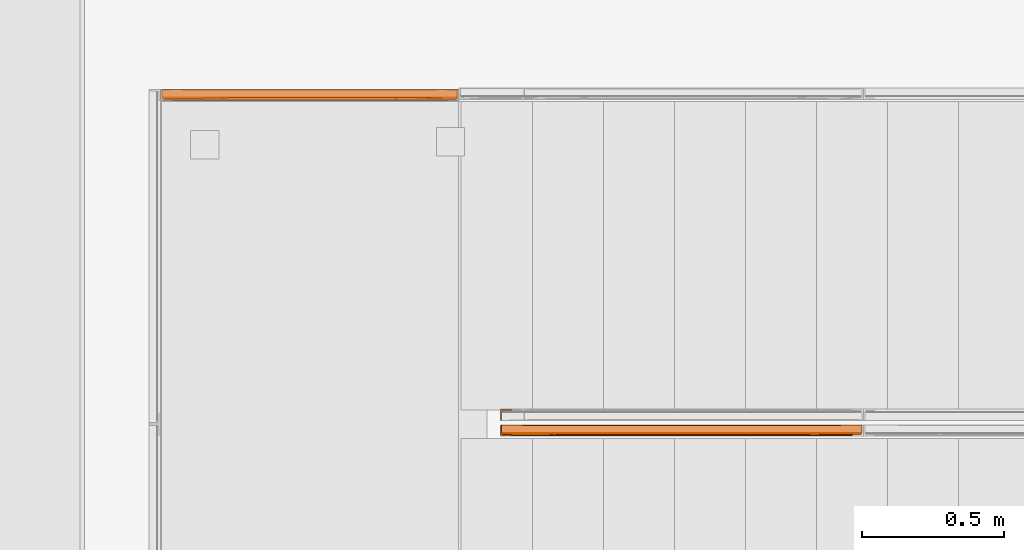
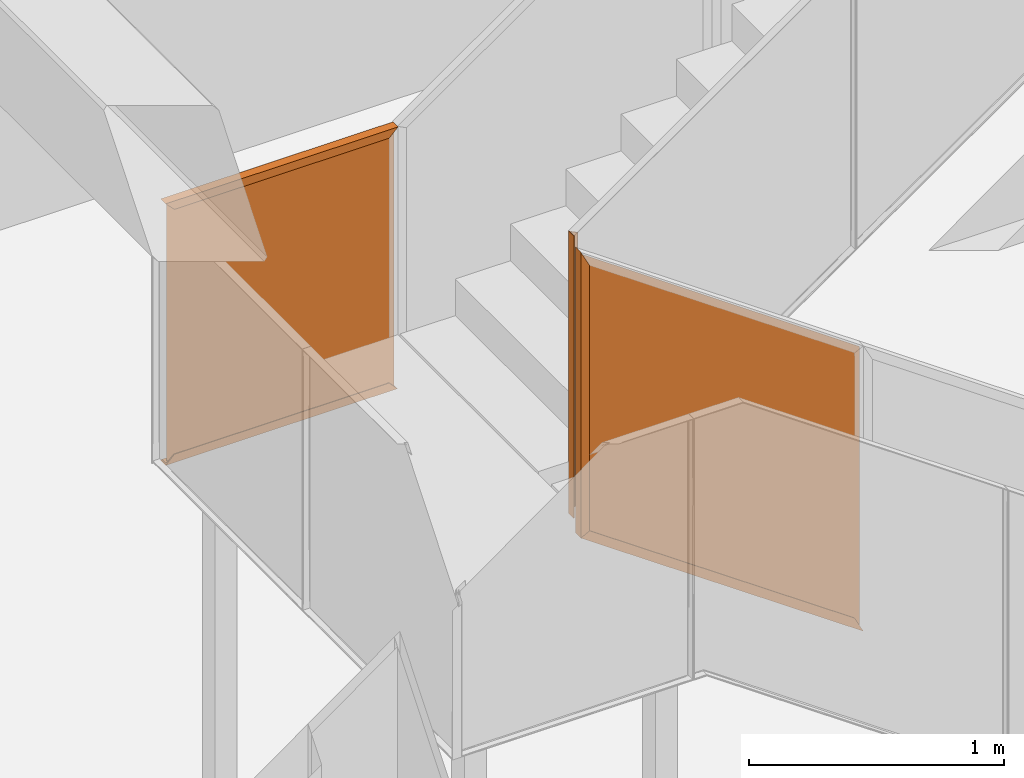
# One storey, part 219 of 230: 7 proxies.
"""IFC4X3_ADD2 building model written with IfcOpenShell, lengths in millimetres."""

from ifc_helpers import new_model, si_unit, direction, frame, origin_with_axes, place, context, subcontext, project, spatial, triangles, polygons, source, transform, mapped, material, type_object, type_shapes, element, save


model = new_model("IFC4X3_ADD2")

# Units and contexts
model_context = context("Model", 3, precision=1e-05, world=origin_with_axes(), true_north=direction((0.0, 1.0)))
body_context = subcontext(model_context, "Body", "Model", "MODEL_VIEW")
ifc_project = project(units=[si_unit("LENGTHUNIT", "METRE", prefix="MILLI"), si_unit("AREAUNIT", "SQUARE_METRE"), si_unit("VOLUMEUNIT", "CUBIC_METRE"), si_unit("PLANEANGLEUNIT", "RADIAN"), si_unit("TIMEUNIT", "SECOND"), si_unit("MASSUNIT", "GRAM")], contexts=[model_context])

# Site, building, storey
site_placement = place(None, origin_with_axes())
site = spatial("IfcSite", under=ifc_project, at=site_placement, Name="Site", CompositionType="ELEMENT")
building_placement = place(site_placement, origin_with_axes())
building = spatial("IfcBuilding", under=site, at=building_placement, Name="IFC Building Story")
storey_placement = place(building_placement, origin_with_axes())
storey = spatial("IfcBuildingStorey", under=building, at=storey_placement, Name="ETAGE 00 (0)", Elevation=0.0)

# Proxies
ifc_material = material(Name="<Unnamed>")
building_element_proxy_type_1 = type_object("IfcBuildingElementProxyType", Name="19", PredefinedType="NOTDEFINED")
shared_shape_1 = source(origin_with_axes(), body_context, "Body", "Tessellation", [
    triangles([(35064.3062255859, 1829.49995727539, 1612.7075214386), (35059.3065307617, 1832.51939506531, 1610.10419197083), (35061.30640869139, 1832.5096572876, 1611.14555282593), (35063.0597900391, 1831.87524833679, 1612.05857849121), (35063.9202026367, 1830.94420051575, 1612.50578956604), (35064.3062255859, 1803.49994544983, 1612.7075214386), (35059.3065307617, 1792.50003547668, 1610.10419197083), (35064.9782775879, 1800.79124450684, 1613.05720939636), (35066.2688964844, 1799.26808166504, 1613.72882537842), (35096.3135742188, 1797.49958496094, 1629.36871376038), (35098.0692810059, 1796.86968154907, 1630.28304748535), (35099.3133911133, 1794.49991340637, 1630.93068237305), (35098.9250427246, 1795.94197654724, 1630.72851448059), (35099.3133911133, 1792.50003547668, 1630.93068237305), (35066.5363220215, 1798.95312995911, 1613.86762504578), (35070.3081848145, 1797.49943962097, 1615.83145866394), (35068.2920288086, 1797.9236869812, 1614.78210411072), (36296.6891418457, 1794.49991340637, 794.6262062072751), (36296.6891418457, 1792.50003547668, 794.6262062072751), (36336.6890258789, 1792.50003547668, 717.7869283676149), (36333.5217773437, 1832.27507858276, 723.872094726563), (36332.1334899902, 1831.1918598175, 726.537121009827), (36174.5570617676, 1832.50122756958, 833.4889503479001), (36331.6893310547, 1829.49995727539, 727.3918653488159), (35694.1584777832, 1832.50616912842, 1169.07028369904), (35213.7598937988, 1832.50645980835, 1504.64783821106), (36334.6891479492, 1832.49991950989, 721.628917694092), (36298.5308898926, 1797.27329063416, 791.089866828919), (36296.7891357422, 1795.36831970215, 794.4344301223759), (36297.1333007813, 1796.17946205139, 793.775168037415), (36299.6889587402, 1797.50002098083, 788.863258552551), (36325.6896972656, 1797.5010383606, 738.9177606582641), (36328.5011535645, 1798.14998130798, 733.5168548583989), (36329.2592468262, 1798.67640266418, 732.058295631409), (36330.1289611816, 1799.27869148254, 730.3899381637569), (36331.6893310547, 1803.49994544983, 727.3918653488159), (36336.6890258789, 1832.47782783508, 717.7869283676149), (36331.2219177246, 1800.92641067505, 728.2922464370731), (36331.6288696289, 1802.51134300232, 727.5065385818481), (36011.2554016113, 1800.54721870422, 954.786270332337), (35694.4491577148, 1800.43196411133, 1176.25640029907), (35694.1235961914, 1803.49994544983, 1172.75581455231), (36012.906463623, 1803.49994544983, 950.073839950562), (35375.3407287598, 1803.49994544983, 1395.43778915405), (35377.5754760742, 1800.41713943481, 1397.6219581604), (36009.5136474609, 1797.5001663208, 959.772811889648), (35240.3838500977, 1797.49900360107, 1528.74055366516), (36148.3609863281, 1797.50002098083, 894.560004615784)], [[1, 2, 3], [3, 4, 1], [5, 1, 4], [6, 2, 1], [7, 6, 8], [7, 2, 6], [7, 8, 9], [10, 11, 12], [13, 12, 11], [10, 12, 14], [9, 15, 7], [16, 14, 7], [17, 16, 7], [10, 14, 16], [15, 17, 7], [14, 12, 18], [18, 19, 14], [7, 14, 19], [19, 20, 7], [21, 22, 23], [23, 22, 24], [23, 24, 25], [25, 1, 26], [1, 25, 24], [26, 1, 5], [26, 4, 3], [26, 5, 4], [23, 27, 21], [28, 19, 18], [29, 30, 18], [28, 18, 30], [31, 32, 19], [31, 19, 28], [32, 33, 20], [32, 20, 19], [20, 33, 34], [34, 35, 20], [36, 37, 20], [38, 39, 20], [35, 38, 20], [24, 22, 21], [27, 37, 24], [27, 24, 21], [24, 37, 36], [36, 20, 39], [40, 41, 42], [38, 35, 43], [43, 39, 38], [34, 40, 43], [43, 35, 34], [44, 9, 8], [44, 8, 6], [45, 16, 17], [41, 46, 16], [16, 45, 41], [45, 15, 9], [45, 17, 15], [32, 46, 40], [40, 33, 32], [40, 34, 33], [41, 40, 46], [9, 44, 45], [45, 44, 41], [42, 41, 44], [43, 36, 39], [42, 43, 40], [6, 1, 44], [44, 1, 42], [42, 24, 43], [24, 42, 1], [36, 43, 24], [37, 25, 2], [37, 27, 23], [23, 25, 37], [25, 26, 2], [3, 2, 26], [2, 7, 37], [20, 37, 7], [16, 47, 10], [47, 16, 46], [46, 32, 48], [31, 48, 32], [46, 48, 47], [30, 29, 48], [48, 28, 30], [48, 31, 28], [48, 29, 18], [48, 18, 12], [12, 47, 48], [47, 12, 13], [47, 11, 10], [47, 13, 11]]),
])
type_shapes(building_element_proxy_type_1, [shared_shape_1])
proxy_1_placement = place(storey_placement, origin_with_axes())
element("IfcBuildingElementProxy", 1, at=proxy_1_placement, inside=storey, type_object=building_element_proxy_type_1, material=ifc_material, Name="10:3443", ObjectType="10:3443", context=body_context, shape_type="MappedRepresentation", body=[
    mapped(shared_shape_1, transform((0.0, 0.0, 0.0))),
])
building_element_proxy_type_2 = type_object("IfcBuildingElementProxyType", Name="61", PredefinedType="NOTDEFINED")
shared_shape_2 = source(origin_with_axes(), body_context, "Body", "Tessellation", [
    polygons([(40.0, 1.99999999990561, 1288.44422625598), (40.0, 2.00000000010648, 20.8226812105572), (40.0, 0.0, 20.8226812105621), (40.0, 0.0, 1288.44422625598), (0.0, 40.0, 0.0), (2.00000000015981, 40.0, 1.04113406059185), (2.00000000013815, 40.0, 171.196670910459), (2.00000000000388, 40.0, 1192.12988490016), (1.99999999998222, 40.0, 1362.28542056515), (0.0, 40.0, 1366.17179921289), (0.0, 0.0, 1366.17179921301), (3.84285182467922, 39.59419463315, 1358.70441057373), (4.46608726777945, 39.042680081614, 1357.4933461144), (4.85025221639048, 38.2396754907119, 1356.74684088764), (5.000000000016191, 37.0000000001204, 1356.45585259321), (4.99999999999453, 10.999999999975, 1356.45585259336), (5.122497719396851, 9.32270996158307, 1356.21781633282), (5.795330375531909, 7.32675645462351, 1354.91037509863), (6.47887046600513, 6.56916478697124, 1353.58212729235), (6.951134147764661, 6.04573823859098, 1352.66442954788), (7.945960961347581, 5.50547157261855, 1350.73129270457), (11.0000000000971, 5.000000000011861, 1344.79671664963), (37.0000000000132, 4.99999999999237, 1294.27379422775), (38.8535463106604, 4.58604482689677, 1290.67200282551), (39.4717835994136, 4.03497359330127, 1289.47065072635), (39.8527251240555, 3.23423595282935, 1288.73040922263), (5.00000000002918, 37.0, 2.60283515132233), (5.00000000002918, 10.9999999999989, 2.60283515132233), (5.00000000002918, 10.9999999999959, 171.834457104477), (5.00000000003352, 10.9999999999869, 679.5293408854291), (5.00000000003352, 10.999999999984, 848.760968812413), (5.00000000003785, 10.999999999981, 1017.9925967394), (5.00000000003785, 10.999999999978, 1187.22422466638), (0.0, 0.0, 0.0), (6.94078748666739, 7.67803025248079, 1184.05604404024), (7.71700979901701, 8.24275012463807, 677.6104365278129), (7.95541067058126, 8.00853730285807, 172.459353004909), (7.96401777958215, 7.99735539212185, 340.786042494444), (7.8719086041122, 8.08823820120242, 509.147362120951), (11.0011352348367, 5.0011507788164, 5.72623733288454), (11.001135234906, 5.00115077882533, 842.645284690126), (7.871843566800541, 8.088173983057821, 509.147362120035), (8.426389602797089, 5.48900833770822, 4.3865006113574), (11.0000000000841, 5.00000000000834, 1010.02909534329), (8.3518607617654, 5.38550472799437, 1013.56667598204), (7.526208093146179, 8.37775961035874, 846.187280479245), (7.038014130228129, 7.60400239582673, 1015.32499872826), (8.33514628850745, 5.37716165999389, 1181.77858253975), (5.097146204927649, 9.801286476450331, 2.65340626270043), (6.02786865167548, 7.42731052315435, 3.13790968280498), (36.9999999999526, 4.99999999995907, 1134.89719261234), (37.0, 4.99999999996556, 178.637582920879), (38.6937946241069, 4.54412488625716, 20.142713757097), (39.5558967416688, 3.6761138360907, 20.5914956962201), (37.0000000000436, 4.99999999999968, 19.2609801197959), (3.69127323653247, 39.5456925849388, 1.92155514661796), (4.55407897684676, 38.6790531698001, 2.37070336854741)], [[[1, 2, 3, 4]], [[8, 9, 10]], [[10, 7, 8]], [[10, 5, 7]], [[5, 6, 7]], [[22, 23, 24]], [[22, 24, 25]], [[22, 25, 26]], [[22, 26, 1]], [[22, 1, 4]], [[22, 4, 11]], [[11, 21, 22]], [[11, 20, 21]], [[11, 19, 20]], [[11, 18, 19]], [[11, 17, 18]], [[11, 16, 17]], [[11, 10, 9]], [[11, 9, 12]], [[11, 12, 13]], [[11, 13, 14]], [[11, 14, 15]], [[11, 15, 16]], [[33, 16, 15]], [[15, 32, 33]], [[15, 31, 32]], [[15, 30, 31]], [[15, 27, 30]], [[27, 29, 30]], [[27, 28, 29]], [[10, 11, 34, 5]], [[11, 4, 3, 34]], [[21, 20, 35]], [[20, 19, 35]], [[39, 36, 30]], [[30, 38, 39]], [[30, 29, 38]], [[29, 37, 38]], [[19, 18, 33]], [[17, 16, 33]], [[33, 18, 17]], [[38, 37, 40]], [[40, 42, 38]], [[40, 36, 42]], [[40, 41, 36]], [[37, 43, 40]], [[44, 45, 46]], [[46, 41, 44]], [[45, 47, 46]], [[48, 45, 44]], [[44, 22, 48]], [[48, 35, 47]], [[41, 46, 36]], [[31, 46, 47]], [[35, 33, 32]], [[46, 31, 30]], [[29, 28, 49]], [[49, 37, 29]], [[50, 43, 37]], [[37, 49, 50]], [[30, 36, 46]], [[32, 47, 35]], [[47, 32, 31]], [[47, 45, 48]], [[22, 21, 48]], [[33, 35, 19]], [[35, 48, 21]], [[51, 52, 2, 1]], [[1, 26, 51]], [[25, 24, 51]], [[51, 26, 25]], [[24, 23, 51]], [[53, 54, 52]], [[52, 55, 53]], [[52, 54, 2]], [[52, 41, 40]], [[40, 55, 52]], [[52, 51, 41]], [[51, 44, 41]], [[51, 23, 22]], [[51, 22, 44]], [[8, 7, 27, 15]], [[15, 14, 8]], [[13, 12, 8]], [[8, 14, 13]], [[12, 9, 8]], [[56, 57, 7]], [[7, 57, 27]], [[7, 6, 56]], [[28, 27, 57]], [[28, 57, 56]], [[28, 56, 6]], [[28, 6, 5]], [[28, 5, 34]], [[34, 49, 28]], [[34, 50, 49]], [[34, 43, 50]], [[34, 40, 43]], [[34, 3, 2]], [[34, 2, 54]], [[34, 54, 53]], [[34, 53, 55]], [[34, 55, 40]]]),
])
type_shapes(building_element_proxy_type_2, [shared_shape_2])
proxy_2_placement = place(storey_placement, frame((35059.1894781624, 1792.49996376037, 1610.104226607), z_axis=(0.0, 0.0, 1.0), x_axis=(1.0, 0.0, 0.0)))
element("IfcBuildingElementProxy", 2, at=proxy_2_placement, inside=storey, type_object=building_element_proxy_type_2, material=ifc_material, Name="31", ObjectType="31", context=body_context, shape_type="MappedRepresentation", body=[
    mapped(shared_shape_2, transform((0.0, 0.0, 0.0))),
])
building_element_proxy_type_3 = type_object("IfcBuildingElementProxyType", Name="63", PredefinedType="NOTDEFINED")
shared_shape_3 = source(origin_with_axes(), body_context, "Body", "Tessellation", [
    polygons([(0.0, 0.0, 2217.67478006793), (1255.49999999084, 0.0, 1337.18245467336), (1255.49999999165, 0.0, 0.0), (0.118279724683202, 0.0, 876.913701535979)], [[[1, 2, 3, 4]]]),
])
type_shapes(building_element_proxy_type_3, [shared_shape_3])
proxy_3_placement = place(storey_placement, frame((35070.18947816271, 1803.49996376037, 738.91775737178), z_axis=(0.0, 0.0, 1.0), x_axis=(1.0, 0.0, 0.0)))
element("IfcBuildingElementProxy", 3, at=proxy_3_placement, inside=storey, type_object=building_element_proxy_type_3, material=ifc_material, Name="32", ObjectType="32", context=body_context, shape_type="MappedRepresentation", body=[
    mapped(shared_shape_3, transform((0.0, 0.0, 0.0))),
])
building_element_proxy_type_4 = type_object("IfcBuildingElementProxyType", Name="179", PredefinedType="NOTDEFINED")
shared_shape_4 = source(origin_with_axes(), body_context, "Body", "Tessellation", [
    triangles([(34874.520135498, 2972.49995727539, 2870.00010910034), (34874.520135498, 2974.49983520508, 2870.00010910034), (33904.1886657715, 2974.49983520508, 2870.00010910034), (33904.1886657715, 2972.49995727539, 2870.00010910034), (34914.5200195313, 2972.49995727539, 2909.99999313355), (34903.520690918, 2977.49994277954, 2899.0000831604), (34904.5252807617, 2977.5987739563, 2900.00351028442), (34905.4601074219, 2977.94322967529, 2900.93979034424), (34906.5019042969, 2978.32605514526, 2901.98187789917), (34907.4065002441, 2979.00682754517, 2902.88589248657), (34874.8573242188, 2975.91980667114, 2870.33642578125), (34874.5736206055, 2975.09543838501, 2870.05243148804), (34877.5199523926, 2977.49994277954, 2872.99992599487), (34875.7386657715, 2976.91073455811, 2871.21747665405), (34909.8575134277, 3010.91185684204, 2905.33777770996), (34909.520324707, 3009.50002441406, 2905.00000762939), (34910.7551330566, 3011.91324920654, 2906.23394393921), (34912.5201416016, 3012.50071334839, 2908.00011520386), (34914.5200195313, 3012.50071334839, 2909.99999313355), (34909.520324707, 2983.49986724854, 2905.00000762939), (34907.8483337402, 2979.33965606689, 2903.3280166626), (34908.678515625, 2980.38639450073, 2904.15819854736), (34908.9017578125, 2980.84625015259, 2904.38115005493), (34909.1598815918, 2981.3764503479, 2904.6381111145), (34650.5640380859, 2983.49986724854, 2905.00000762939), (34780.4630859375, 2983.49986724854, 2905.00000762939), (34520.0999084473, 2983.49986724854, 2905.00000762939), (34845.1149536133, 2983.49986724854, 2905.00000762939), (33869.1884765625, 3009.50002441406, 2905.00000762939), (34128.147088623, 2983.49986724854, 2905.00000762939), (33998.245715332, 2983.49986724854, 2905.00000762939), (33869.1884765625, 2983.49986724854, 2905.00000762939), (34844.4754577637, 2980.86630706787, 2904.44277420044), (34779.8305664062, 2980.90118865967, 2904.47852783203), (34778.3027526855, 2979.44778900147, 2902.77834091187), (34776.7005249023, 2977.91706848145, 2901.01623916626), (33998.8759094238, 2980.89363098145, 2904.48201599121), (34130.184173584, 2980.47970275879, 2902.02693328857), (34000.3967468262, 2979.44604492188, 2902.78996810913), (34518.9836975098, 2980.4145904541, 2901.95862350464), (34389.3544006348, 2980.38087158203, 2901.92577667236), (34259.7251037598, 2980.41313705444, 2901.95833282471), (33869.9070373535, 2980.57766189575, 2904.28231887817), (33870.9906921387, 2979.19489746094, 2903.19982681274), (33869.807043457, 2980.83549499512, 2904.38289413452), (33869.3698608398, 2981.95228729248, 2904.81862335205), (34003.731427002, 2977.49994277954, 2898.99979248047), (34646.4387084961, 2977.49994277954, 2898.99979248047), (34001.9966491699, 2977.91416168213, 2901.02728500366), (33875.190435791, 2977.49994277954, 2899.0000831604), (33874.9323120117, 2977.50662841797, 2899.25762557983), (33873.2207885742, 2977.88276824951, 2900.96798629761), (33873.034753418, 2977.9240447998, 2901.15576553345), (33872.4929260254, 2978.16182098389, 2901.69701156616), (34648.5246276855, 2980.45325088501, 2902.04524612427), (34774.979699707, 2977.49994277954, 2899.0000831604), (34755.9715576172, 2977.49994277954, 2872.99992599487), (33901.188848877, 2977.49994277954, 2872.99992599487), (34022.7395690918, 2977.49994277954, 2872.99992599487), (33902.9561828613, 2976.91335067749, 2871.23404541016), (33903.8514770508, 2975.91166763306, 2870.33758850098), (33864.1887817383, 2972.49995727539, 2909.99999313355), (33864.1887817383, 3012.4989692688, 2909.99999313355), (34782.2211181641, 3012.50042266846, 2908.00011520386), (33996.4876831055, 3012.49955062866, 2908.00011520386), (33867.5211364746, 3012.17776794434, 2906.66880111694), (33868.7698974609, 3011.06359176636, 2905.41858673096), (33869.1187133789, 3010.18341293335, 2905.06977081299), (33866.188659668, 3012.49955062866, 2908.00011520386)], [[1, 2, 3], [3, 4, 1], [5, 6, 1], [6, 5, 7], [5, 8, 7], [8, 5, 9], [5, 10, 9], [2, 11, 12], [13, 2, 1], [2, 14, 11], [14, 2, 13], [1, 6, 13], [15, 16, 17], [16, 18, 17], [18, 16, 19], [16, 20, 19], [21, 10, 5], [22, 21, 5], [23, 22, 5], [24, 5, 20], [5, 24, 23], [20, 5, 19], [16, 25, 26], [25, 16, 27], [16, 28, 20], [28, 16, 26], [27, 29, 30], [29, 27, 16], [29, 31, 30], [31, 29, 32], [33, 22, 23], [33, 21, 22], [33, 34, 35], [35, 10, 33], [36, 6, 7], [36, 7, 8], [30, 31, 37], [37, 38, 30], [37, 39, 38], [40, 41, 27], [27, 41, 42], [42, 38, 30], [42, 30, 27], [37, 43, 44], [44, 39, 37], [45, 37, 31], [31, 46, 45], [47, 42, 38], [42, 47, 41], [41, 48, 40], [48, 41, 47], [38, 49, 47], [50, 47, 49], [49, 51, 50], [52, 49, 39], [39, 53, 52], [39, 54, 53], [40, 48, 55], [55, 56, 36], [56, 55, 48], [55, 36, 35], [35, 8, 9], [35, 9, 10], [27, 55, 25], [34, 25, 55], [25, 34, 26], [55, 35, 34], [28, 23, 24], [28, 24, 20], [33, 26, 34], [26, 33, 28], [23, 28, 33], [55, 27, 40], [8, 35, 36], [39, 44, 54], [49, 52, 51], [38, 39, 49], [31, 32, 46], [37, 45, 43], [6, 36, 56], [33, 10, 21], [6, 56, 13], [57, 13, 56], [56, 48, 57], [47, 50, 58], [47, 59, 48], [59, 47, 58], [48, 59, 57], [2, 57, 3], [59, 3, 57], [57, 2, 12], [57, 12, 11], [57, 14, 13], [57, 11, 14], [60, 61, 59], [59, 61, 3], [59, 58, 60], [5, 1, 62], [4, 62, 1], [63, 19, 5], [5, 62, 63], [16, 64, 65], [65, 29, 16], [64, 16, 15], [64, 17, 18], [64, 15, 17], [66, 67, 65], [65, 68, 29], [65, 67, 68], [65, 69, 66], [63, 69, 65], [63, 65, 64], [64, 18, 19], [64, 19, 63], [58, 4, 3], [61, 60, 3], [58, 3, 60], [4, 50, 62], [50, 4, 58], [62, 50, 51], [52, 53, 62], [51, 52, 62], [62, 53, 54], [44, 43, 62], [54, 44, 62], [32, 63, 62], [46, 62, 45], [45, 62, 43], [29, 68, 67], [29, 67, 66], [69, 63, 29], [69, 29, 66], [29, 63, 32], [32, 62, 46]]),
])
type_shapes(building_element_proxy_type_4, [shared_shape_4])
proxy_4_placement = place(storey_placement, origin_with_axes())
element("IfcBuildingElementProxy", 4, at=proxy_4_placement, inside=storey, type_object=building_element_proxy_type_4, material=ifc_material, Name="99", ObjectType="99", context=body_context, shape_type="MappedRepresentation", body=[
    mapped(shared_shape_4, transform((0.0, 0.0, 0.0))),
])
building_element_proxy_type_5 = type_object("IfcBuildingElementProxyType", Name="183", PredefinedType="NOTDEFINED")
shared_shape_5 = source(origin_with_axes(), body_context, "Body", "Tessellation", [
    triangles([(33904.1886657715, 2972.49995727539, 1700.00001296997), (33904.1886657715, 2974.49983520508, 1700.00001296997), (34874.520135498, 2972.49995727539, 1700.00001296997), (34874.520135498, 2974.49983520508, 1700.00001296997), (34876.8665039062, 2977.44471359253, 1697.53199501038), (34875.3200866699, 2976.58226623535, 1699.15805854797), (34874.6991943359, 2975.57564163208, 1699.8119430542), (34877.3711242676, 2977.49994277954, 1697.00005073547), (34902.0696166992, 2977.49994277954, 1671.00003890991), (34912.5201416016, 2972.49995727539, 1659.9999835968), (34903.76718749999, 2977.80079650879, 1669.21468276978), (34903.9439208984, 2977.89323272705, 1669.02806625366), (34905.3740661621, 2978.63882675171, 1667.52350692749), (34905.7763671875, 2979.0292098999, 1667.09838752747), (34906.5553894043, 2979.78119888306, 1666.27939682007), (34907.7715942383, 2983.49986724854, 1664.99996910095), (34912.5201416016, 3012.49984130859, 1659.9999835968), (34907.564630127, 2981.84066619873, 1665.21652565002), (34907.7715942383, 3009.50002441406, 1664.99996910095), (34907.9483276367, 3010.57554016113, 1664.81204452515), (34908.5715454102, 3011.5821647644, 1664.15801467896), (34910.115637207, 3012.44490280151, 1662.53195114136), (34910.6202575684, 3012.49984130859, 1662.00000686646), (33869.1884765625, 3009.50002441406, 1664.99996910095), (34128.8354187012, 2983.49986724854, 1664.99996910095), (33999.0131103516, 2983.49986724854, 1664.99996910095), (34518.30234375, 2983.49986724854, 1664.99996910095), (33934.100793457, 2983.49986724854, 1664.99996910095), (33869.1884765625, 2983.49986724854, 1664.99996910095), (34648.1246520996, 2983.49986724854, 1664.99996910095), (34777.9469604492, 2983.49986724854, 1664.99996910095), (34774.384387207, 2977.92462615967, 1668.96586074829), (34775.6447753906, 2979.85735702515, 1667.55984191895), (34130.8794799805, 2980.48115615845, 1667.97144470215), (34004.4918457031, 2977.49994277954, 1671.00003890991), (34002.7570678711, 2977.91183624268, 1668.97094764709), (34644.2225646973, 2977.5005241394, 1671.00062026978), (34388.5358459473, 2980.38435974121, 1668.07085723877), (34517.2721740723, 2980.41400909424, 1668.04091720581), (34259.7995178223, 2980.41662521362, 1668.03801040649), (34001.15949096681, 2979.44139404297, 1667.21320610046), (33873.2184631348, 2977.85864181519, 1669.02951965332), (33872.5254821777, 2978.14525222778, 1668.33639335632), (33871.27904663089, 2978.97049255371, 1667.08864974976), (33875.190435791, 2977.49994277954, 1671.00003890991), (33999.63632812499, 2980.89130554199, 1665.51970481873), (33934.7333129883, 2980.8564239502, 1665.55371437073), (33869.7930908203, 2980.82415847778, 1665.60371131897), (33869.3280029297, 2982.13396224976, 1665.13964080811), (34646.1945373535, 2980.46516876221, 1667.9686832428), (34772.7333251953, 2977.49994277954, 1671.00003890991), (33901.188848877, 2977.49994277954, 1697.00005073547), (34023.2116333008, 2977.49994277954, 1697.00005073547), (34755.3483398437, 2977.49994277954, 1697.00005073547), (33903.9212402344, 2975.78289642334, 1699.73142471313), (33903.2887207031, 2976.65290145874, 1699.09963188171), (33902.2678527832, 2977.28803710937, 1698.0774559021), (33864.1887817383, 2972.49995727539, 1659.9999835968), (33864.1887817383, 3012.50013198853, 1659.9999835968), (34780.0677612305, 3012.49984130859, 1662.00000686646), (33996.7434814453, 3012.50013198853, 1662.00000686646), (33868.9210510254, 3010.78279495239, 1664.73138084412), (33868.2885314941, 3011.65279998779, 1664.09973335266), (33867.2676635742, 3012.28822631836, 1663.07741203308), (33866.188659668, 3012.50013198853, 1662.00000686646)], [[1, 2, 3], [4, 3, 2], [3, 4, 5], [6, 5, 4], [6, 4, 7], [3, 5, 8], [3, 9, 10], [9, 3, 8], [11, 12, 10], [9, 11, 10], [10, 12, 13], [14, 15, 10], [16, 17, 10], [15, 18, 10], [14, 10, 13], [19, 20, 21], [19, 21, 22], [23, 17, 19], [23, 19, 22], [19, 17, 16], [16, 10, 18], [24, 25, 26], [25, 24, 27], [24, 28, 29], [28, 24, 26], [27, 19, 30], [19, 27, 24], [19, 31, 30], [31, 19, 16], [12, 32, 33], [33, 13, 12], [18, 15, 31], [14, 33, 31], [31, 15, 14], [34, 35, 36], [37, 38, 39], [38, 37, 35], [40, 35, 34], [35, 40, 38], [34, 36, 41], [41, 42, 43], [41, 43, 44], [36, 45, 42], [46, 25, 34], [25, 46, 26], [34, 41, 46], [39, 38, 27], [27, 38, 40], [40, 34, 25], [40, 25, 27], [47, 26, 46], [47, 44, 48], [47, 46, 41], [41, 44, 47], [28, 48, 49], [28, 49, 29], [50, 39, 27], [33, 50, 30], [51, 37, 50], [50, 32, 51], [9, 51, 32], [32, 11, 9], [32, 12, 11], [50, 33, 32], [39, 50, 37], [30, 31, 33], [27, 30, 50], [48, 28, 47], [26, 47, 28], [45, 36, 35], [42, 41, 36], [31, 16, 18], [33, 14, 13], [45, 35, 52], [53, 52, 35], [35, 37, 53], [51, 9, 8], [51, 54, 37], [54, 51, 8], [37, 54, 53], [6, 7, 54], [54, 5, 6], [54, 8, 5], [54, 7, 4], [54, 4, 2], [2, 53, 54], [53, 2, 55], [53, 56, 57], [53, 55, 56], [53, 57, 52], [58, 1, 10], [3, 10, 1], [17, 59, 58], [58, 10, 17], [21, 20, 60], [60, 22, 21], [60, 23, 22], [60, 20, 19], [60, 19, 24], [24, 61, 60], [61, 24, 62], [61, 63, 64], [61, 62, 63], [61, 64, 65], [17, 23, 60], [17, 60, 61], [61, 65, 59], [61, 59, 17], [58, 45, 1], [45, 58, 42], [42, 58, 43], [58, 44, 43], [2, 56, 55], [57, 2, 1], [2, 57, 56], [57, 1, 52], [1, 45, 52], [24, 63, 62], [63, 24, 64], [24, 65, 64], [65, 24, 59], [24, 29, 59], [48, 44, 58], [49, 58, 29], [58, 49, 48], [29, 58, 59]]),
])
type_shapes(building_element_proxy_type_5, [shared_shape_5])
proxy_5_placement = place(storey_placement, origin_with_axes())
element("IfcBuildingElementProxy", 5, at=proxy_5_placement, inside=storey, type_object=building_element_proxy_type_5, material=ifc_material, Name="101", ObjectType="101", context=body_context, shape_type="MappedRepresentation", body=[
    mapped(shared_shape_5, transform((0.0, 0.0, 0.0))),
])
building_element_proxy_type_6 = type_object("IfcBuildingElementProxyType", Name="185", PredefinedType="NOTDEFINED")
shared_shape_6 = source(origin_with_axes(), body_context, "Body", "Tessellation", [
    polygons([(0.0, 0.0, 0.0), (1028.33121776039, 0.0, 0.0), (1028.33121776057, 0.0, 1227.99999999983), (0.0, 0.0, 1227.99999999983)], [[[1, 2, 3, 4]]]),
])
type_shapes(building_element_proxy_type_6, [shared_shape_6])
proxy_6_placement = place(storey_placement, frame((33875.18947816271, 2983.49996364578, 1671.00000000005), z_axis=(0.0, 0.0, 1.0), x_axis=(1.0, 0.0, 0.0)))
element("IfcBuildingElementProxy", 6, at=proxy_6_placement, inside=storey, type_object=building_element_proxy_type_6, material=ifc_material, Name="102", ObjectType="102", context=body_context, shape_type="MappedRepresentation", body=[
    mapped(shared_shape_6, transform((0.0, 0.0, 0.0))),
])
building_element_proxy_type_7 = type_object("IfcBuildingElementProxyType", Name="187", PredefinedType="NOTDEFINED")
shared_shape_7 = source(origin_with_axes(), body_context, "Body", "Tessellation", [
    triangles([(35099.1901428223, 1887.49990539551, 3000.92816390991), (35099.1901428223, 1887.49990539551, 1709.99998397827), (35099.1901428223, 1885.50002746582, 3000.92816390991), (35099.1901428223, 1885.50002746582, 1709.99998397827), (35059.1902587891, 1847.5000213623, 3021.51295394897), (35061.1901367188, 1847.5000213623, 3020.48365631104), (35061.1901367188, 1847.5000213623, 2852.35089569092), (35061.1901367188, 1847.5000213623, 1840.24901046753), (35061.1901367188, 1847.5000213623, 1671.99997787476), (35059.1902587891, 1847.5000213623, 1669.9999546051), (35070.1895874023, 1882.49991989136, 1681.00000991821), (35096.1903259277, 1882.49991989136, 1707.00002174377), (35059.1902587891, 1887.49990539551, 1669.9999546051), (35068.0897155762, 1882.10997276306, 1678.89999275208), (35066.0758850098, 1880.83519592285, 1676.88674354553), (35098.8971374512, 1884.22612266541, 1709.70843200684), (35098.1995056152, 1883.28824386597, 1709.00920143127), (35063.1993164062, 1848.28834533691, 1674.00930290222), (35063.8969482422, 1849.22607879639, 1674.70838813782), (35064.1899536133, 1850.4999835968, 1674.99994010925), (35064.1899536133, 1876.49999542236, 1674.99994010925), (35064.7806152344, 1879.0635017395, 1675.59060173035), (35059.1902587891, 1887.49990539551, 3021.51295394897), (35064.1899536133, 1850.4999835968, 3018.93985519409), (35064.1899536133, 1876.49999542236, 3018.93985519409), (35064.1899536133, 1876.49999542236, 2683.99925308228), (35064.1899536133, 1876.49999542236, 2347.23594245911), (35064.1899536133, 1876.49999542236, 2010.33979110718), (35066.9200195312, 1879.26784973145, 2012.33283805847), (35070.1895874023, 1882.49991989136, 2014.71307067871), (35066.0782104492, 1880.8379573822, 3017.96724014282), (35067.9734436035, 1882.06375465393, 3016.99288101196), (35067.0595458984, 1879.38673782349, 2683.11006317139), (35070.1895874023, 1882.49991989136, 3015.85196228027), (35067.0502441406, 1879.37772674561, 2347.80218696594), (35064.7550354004, 1879.01074333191, 3018.64888458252), (35096.1903259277, 1882.49991989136, 1868.6225692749), (35096.1903259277, 1882.49991989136, 2840.96583480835), (35096.1903259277, 1882.49991989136, 3002.47196502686), (35096.4182189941, 1882.50893096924, 3002.35423965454), (35098.0437011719, 1883.15569381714, 3001.51795349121), (35098.7785400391, 1884.00258979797, 3001.13948822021), (35061.4180297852, 1847.50888710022, 3020.36593093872), (35063.0435119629, 1848.15564994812, 3019.52964477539), (35063.7783508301, 1849.00254592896, 3019.15117950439)], [[1, 2, 3], [4, 3, 2], [5, 6, 7], [5, 7, 8], [8, 9, 10], [8, 10, 5], [2, 11, 12], [11, 2, 13], [14, 11, 13], [13, 15, 14], [2, 12, 4], [16, 4, 17], [12, 17, 4], [18, 19, 20], [18, 20, 9], [10, 9, 20], [21, 22, 13], [20, 21, 10], [13, 22, 15], [10, 21, 13], [13, 23, 10], [5, 10, 23], [24, 25, 26], [24, 26, 27], [28, 21, 20], [27, 20, 24], [20, 27, 28], [29, 11, 14], [11, 29, 30], [29, 14, 15], [31, 32, 33], [33, 34, 30], [30, 35, 33], [33, 32, 34], [31, 33, 26], [26, 36, 31], [28, 15, 22], [28, 22, 21], [35, 30, 29], [27, 29, 28], [29, 27, 35], [15, 28, 29], [26, 25, 36], [26, 33, 27], [35, 27, 33], [11, 37, 12], [37, 11, 30], [30, 34, 38], [39, 38, 34], [30, 38, 37], [4, 37, 38], [38, 3, 4], [37, 4, 16], [37, 17, 12], [37, 16, 17], [40, 41, 38], [41, 42, 38], [38, 42, 3], [38, 39, 40], [13, 2, 23], [1, 23, 2], [20, 8, 7], [7, 24, 20], [8, 20, 19], [8, 18, 9], [8, 19, 18], [43, 44, 7], [44, 45, 7], [7, 45, 24], [7, 6, 43], [39, 34, 1], [32, 31, 23], [34, 32, 23], [3, 40, 39], [41, 40, 3], [41, 3, 42], [3, 39, 1], [34, 23, 1], [24, 45, 44], [24, 43, 6], [44, 43, 24], [24, 6, 5], [31, 36, 23], [24, 5, 25], [25, 5, 23], [25, 23, 36]]),
])
type_shapes(building_element_proxy_type_7, [shared_shape_7])
proxy_7_placement = place(storey_placement, origin_with_axes())
element("IfcBuildingElementProxy", 7, at=proxy_7_placement, inside=storey, type_object=building_element_proxy_type_7, material=ifc_material, Name="103", ObjectType="103", context=body_context, shape_type="MappedRepresentation", body=[
    mapped(shared_shape_7, transform((0.0, 0.0, 0.0))),
])

save(model, "model.ifc")
